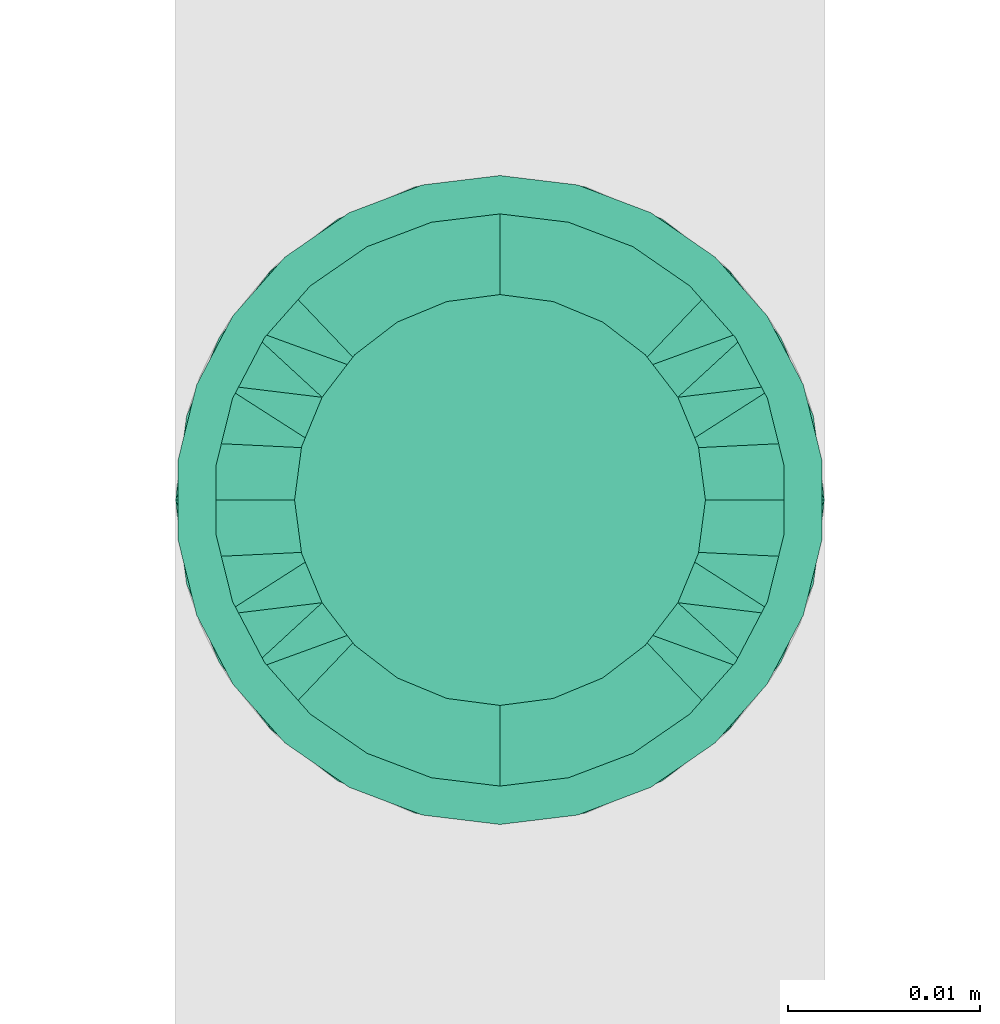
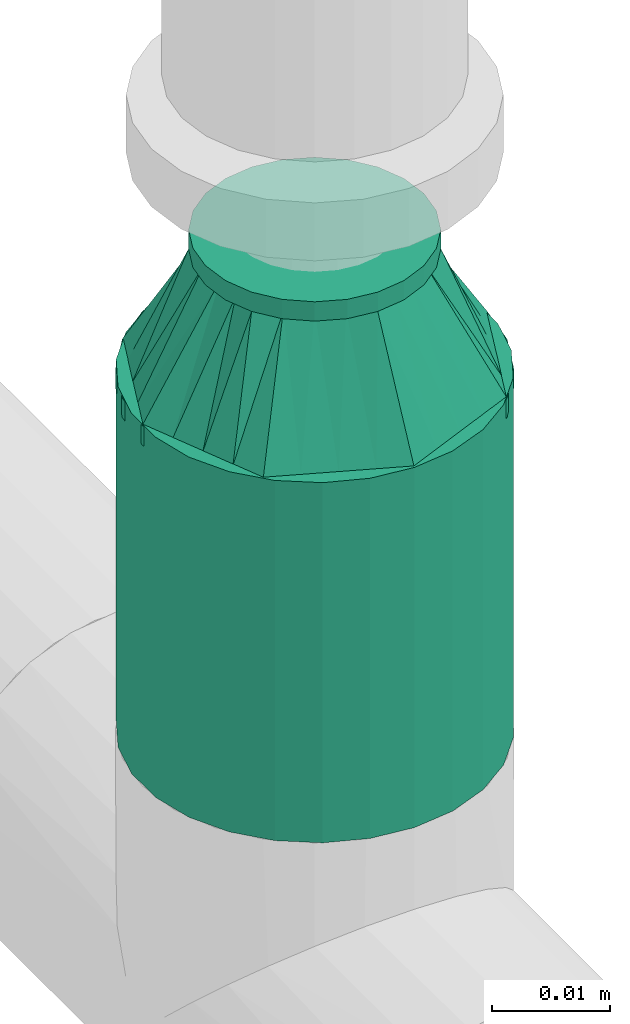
# One storey, part 4 of 31: 1 flow fitting, 1 flow segment.
"""IFC2X3 building model written with IfcOpenShell, lengths in millimetres."""

from ifc_helpers import new_model, entity, si_unit, converted_unit, derived_unit, direction, frame, origin_with_axes, origin_2d_with_axis, place, context, subcontext, project, spatial, hollow_circle, extrude, open_shell, surface_model, source, transform, mapped, type_object, element, save


model = new_model("IFC2X3")

# Units and contexts
model_context = context("Model", 3, precision=0.01, world=frame((0.0, 4.29681676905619e-09, 0.0)), true_north=direction((4.01073788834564e-13, 1.0)))
plan_context = context("Plan", 3, precision=0.01, world=frame((0.0, 4.29681676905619e-09, 0.0)), true_north=direction((4.01073788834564e-13, 1.0)))
body_context = subcontext(model_context, "Body", "Model", "MODEL_VIEW")
ifc_project = project(units=[converted_unit("PLANEANGLEUNIT", "DEGREE", entity("IfcPositiveLengthMeasure", 0.0174532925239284), si_unit("PLANEANGLEUNIT", "RADIAN"), dimensions=[0, 0, 0, 0, 0, 0, 0]), si_unit("AREAUNIT", "SQUARE_METRE"), si_unit("LENGTHUNIT", "METRE", prefix="MILLI"), si_unit("MASSUNIT", "GRAM", prefix="KILO"), si_unit("POWERUNIT", "WATT"), si_unit("PRESSUREUNIT", "PASCAL", prefix="KILO"), si_unit("FORCEUNIT", "NEWTON", prefix="KILO"), si_unit("ELECTRICVOLTAGEUNIT", "VOLT"), si_unit("ELECTRICCURRENTUNIT", "AMPERE"), si_unit("THERMODYNAMICTEMPERATUREUNIT", "DEGREE_CELSIUS"), si_unit("TIMEUNIT", "SECOND"), si_unit("VOLUMEUNIT", "CUBIC_METRE"), derived_unit("LINEARVELOCITYUNIT", [(si_unit("LENGTHUNIT", "METRE"), 1), (si_unit("TIMEUNIT", "SECOND"), -1)]), derived_unit("VOLUMETRICFLOWRATEUNIT", [(si_unit("VOLUMEUNIT", "CUBIC_METRE"), 1), (si_unit("TIMEUNIT", "SECOND"), -1)]), derived_unit("THERMALTRANSMITTANCEUNIT", [(si_unit("POWERUNIT", "WATT"), 1), (si_unit("THERMODYNAMICTEMPERATUREUNIT", "KELVIN"), -1), (si_unit("AREAUNIT", "SQUARE_METRE"), -1)]), derived_unit("SOUNDPRESSUREUNIT", [(si_unit("PRESSUREUNIT", "PASCAL"), 1)])], contexts=[model_context, plan_context])

# Site, building, storey
site_placement = place(None, frame((0.0, -4.29681676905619e-09, 0.0), z_axis=(0.0, 0.0, 1.0), x_axis=(1.0, 0.0, 0.0)))
site = spatial("IfcSite", under=ifc_project, at=site_placement, CompositionType="ELEMENT")
building_placement = place(site_placement, frame((0.0, 4.29681676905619e-09, 0.0), z_axis=(0.0, 0.0, 1.0), x_axis=(1.0, 0.0, 0.0)))
building = spatial("IfcBuilding", under=site, at=building_placement, Name="mc-building", CompositionType="ELEMENT")
storey_placement = place(building_placement, frame((0.0, 0.0, 200300.0), z_axis=(0.0, 0.0, 1.0), x_axis=(1.0, 0.0, 0.0)))
storey = spatial("IfcBuildingStorey", under=building, at=storey_placement, Name="Nivå C", CompositionType="ELEMENT", Elevation=200300.0)

# Flow fitting
pipe_fitting_type = type_object("IfcPipeFittingType", Name="magi_pipe_fe_reducer_centric_short_NOR", PredefinedType="TRANSITION")
shared_shape_1 = source(origin_with_axes(), body_context, "Body", "SurfaceModel", [
    surface_model("IfcShellBasedSurfaceModel", [(14.4, 5.35, -9.26647), (14.4, 0.0, -10.7), (14.4, 2.76936, -10.33541), (14.4, 10.33541, -2.76936), (14.4, 7.56604, -7.56604), (14.4, -10.33541, -2.76936), (14.4, 9.26647, -5.35), (14.4, 0.0, 10.7), (14.4, -5.35, -9.26647), (14.4, -2.76936, -10.33541), (14.4, -7.56604, -7.56604), (14.4, -9.26647, -5.35), (14.4, 10.7, 0.0), (14.4, 10.33541, 2.76936), (14.4, 9.26647, 5.35), (14.4, 7.56604, 7.56604), (14.4, 2.76936, 10.33541), (14.4, 5.35, 9.26647), (14.4, -10.33541, 2.76936), (14.4, -7.56604, 7.56604), (14.4, -9.26647, 5.35), (14.4, -10.7, 0.0), (14.4, -2.76936, 10.33541), (14.4, -5.35, 9.26647), (12.4, 2.76936, 10.33541), (12.4, -10.33541, -2.76936), (12.4, 0.0, 10.7), (12.4, 5.35, 9.26647), (12.4, 7.56604, 7.56604), (12.4, 9.26647, 5.35), (12.4, 10.33541, 2.76936), (12.4, -10.33541, 2.76936), (12.4, -2.76936, 10.33541), (12.4, -7.56604, 7.56604), (12.4, -5.35, 9.26647), (12.4, -9.26647, 5.35), (12.4, -10.7, 0.0), (12.4, 10.33541, -2.76936), (12.4, 5.35, -9.26647), (12.4, 9.26647, -5.35), (12.4, 7.56604, -7.56604), (12.4, 2.76936, -10.33541), (12.4, -9.26647, -5.35), (12.4, -5.35, -9.26647), (12.4, -7.56604, -7.56604), (12.4, 0.0, -10.7), (12.4, -2.76936, -10.33541), (12.4, 10.7, 0.0), (-2.0, 11.9501, 11.9501), (-2.0, 0.0, 16.9), (-2.0, 4.37404, 16.32415), (-2.0, 8.45, 14.63583), (-2.0, 14.63583, 8.45), (-2.0, 16.32415, 4.37404), (-2.0, -16.32415, 4.37404), (-2.0, -8.45, 14.63583), (-2.0, -14.63583, 8.45), (-2.0, -11.9501, 11.9501), (-2.0, -4.37404, 16.32415), (-2.0, -16.32415, -4.37404), (-2.0, -16.9, 0.0), (-2.0, -8.45, -14.63583), (-2.0, 16.32415, -4.37404), (-2.0, 11.9501, -11.9501), (-2.0, 14.63583, -8.45), (-2.0, 8.45, -14.63583), (-2.0, 4.37404, -16.32415), (-2.0, 0.0, -16.9), (-2.0, -11.9501, -11.9501), (-2.0, -14.63583, -8.45), (-2.0, -4.37404, -16.32415), (-2.0, 16.9, 0.0), (0.0, 4.37404, -16.32415), (0.0, 8.45, -14.63583), (0.0, 11.9501, -11.9501), (0.0, 0.0, -16.9), (0.0, 16.32415, -4.37404), (0.0, 16.32415, 4.37404), (0.0, 14.63583, -8.45), (0.0, -8.45, -14.63583), (0.0, -4.37404, -16.32415), (0.0, -11.9501, -11.9501), (0.0, -16.32415, -4.37404), (0.0, -14.63583, -8.45), (0.0, -16.32415, 4.37404), (0.0, 16.9, 0.0), (0.0, 14.63583, 8.45), (0.0, 11.9501, 11.9501), (0.0, 4.37404, 16.32415), (0.0, 8.45, 14.63583), (0.0, 0.0, 16.9), (0.0, -14.63583, 8.45), (0.0, -16.9, 0.0), (0.0, -8.45, 14.63583), (0.0, -11.9501, 11.9501), (0.0, -4.37404, 16.32415), (12.4, 9.3625, -2.31662), (0.0, 14.42505, -5.97505), (0.0, 15.66253, -2.98753), (12.4, -6.6875, -6.94985), (0.0, -13.18758, -8.96258), (0.0, 2.98753, -15.66253), (12.4, 0.0, -9.26647), (12.4, 6.6875, -6.94985), (0.0, 8.96258, -13.18758), (12.4, -9.3625, -2.31662), (0.0, -15.66253, -2.98753), (0.0, -14.42505, -5.97505), (0.0, 5.97505, -14.42505), (0.0, -2.98753, -15.66253), (0.0, -8.96258, -13.18758), (0.0, 13.18758, -8.96258), (12.4, 8.025, -4.63324), (12.4, -2.675, -9.26647), (12.4, 2.675, -9.26647), (0.0, -5.97505, -14.42505), (12.4, -8.025, -4.63324), (12.4, -9.3625, 2.31662), (0.0, -14.42505, 5.97505), (0.0, -15.66253, 2.98753), (12.4, 6.6875, 6.94985), (0.0, 13.18758, 8.96258), (0.0, -2.98753, 15.66253), (12.4, 0.0, 9.26647), (12.4, -6.6875, 6.94985), (0.0, -8.96258, 13.18758), (12.4, 9.3625, 2.31662), (0.0, 15.66253, 2.98753), (0.0, 14.42505, 5.97505), (0.0, -5.97505, 14.42505), (0.0, 2.98753, 15.66253), (0.0, 8.96258, 13.18758), (0.0, -13.18758, 8.96258), (12.4, -8.025, 4.63324), (12.4, 2.675, 9.26647), (12.4, -2.675, 9.26647), (0.0, 5.97505, 14.42505), (12.4, 8.025, 4.63324)], [open_shell([[[0, 1, 2]], [[3, 0, 4]], [[5, 0, 3]], [[3, 4, 6]], [[7, 5, 3]], [[1, 8, 9]], [[1, 0, 8]], [[10, 5, 11]], [[5, 10, 8]], [[0, 5, 8]], [[3, 12, 13]], [[13, 14, 15]], [[13, 15, 16]], [[7, 3, 16]], [[16, 15, 17]], [[7, 18, 5]], [[18, 19, 20]], [[21, 5, 18]], [[19, 22, 23]], [[22, 19, 18]], [[7, 22, 18]], [[13, 16, 3]], [[24, 25, 26]], [[27, 25, 24]], [[28, 29, 30]], [[28, 25, 27]], [[31, 26, 25]], [[32, 33, 34]], [[33, 32, 31]], [[33, 31, 35]], [[32, 26, 31]], [[31, 25, 36]], [[30, 37, 28]], [[25, 28, 37]], [[38, 37, 39]], [[37, 38, 25]], [[38, 39, 40]], [[41, 25, 38]], [[42, 43, 44]], [[43, 42, 25]], [[43, 45, 46]], [[43, 25, 41]], [[41, 45, 43]], [[37, 30, 47]], [[25, 5, 36]], [[42, 11, 25]], [[8, 44, 43]], [[42, 44, 10]], [[9, 43, 46]], [[25, 11, 5]], [[5, 21, 36]], [[9, 8, 43]], [[10, 44, 8]], [[10, 11, 42]], [[1, 9, 46]], [[46, 45, 1]], [[41, 2, 45]], [[38, 0, 41]], [[6, 40, 39]], [[38, 40, 4]], [[3, 39, 37]], [[38, 4, 0]], [[0, 2, 41]], [[12, 3, 37]], [[6, 39, 3]], [[6, 4, 40]], [[47, 12, 37]], [[45, 2, 1]], [[30, 13, 47]], [[29, 14, 30]], [[17, 28, 27]], [[29, 28, 15]], [[16, 27, 24]], [[30, 14, 13]], [[13, 12, 47]], [[16, 17, 27]], [[15, 28, 17]], [[15, 14, 29]], [[7, 16, 24]], [[24, 26, 7]], [[32, 22, 26]], [[34, 23, 32]], [[20, 33, 35]], [[34, 33, 19]], [[18, 35, 31]], [[34, 19, 23]], [[23, 22, 32]], [[21, 18, 31]], [[20, 35, 18]], [[20, 19, 33]], [[36, 21, 31]], [[26, 22, 7]], [[48, 49, 50]], [[48, 50, 51]], [[48, 52, 53]], [[48, 53, 49]], [[49, 53, 54]], [[55, 56, 57]], [[55, 58, 49]], [[56, 55, 49]], [[49, 54, 56]], [[54, 59, 60]], [[54, 53, 61]], [[53, 62, 63]], [[63, 62, 64]], [[63, 65, 66]], [[61, 53, 63]], [[67, 63, 66]], [[59, 68, 69]], [[68, 59, 61]], [[61, 67, 70]], [[59, 54, 61]], [[63, 67, 61]], [[53, 71, 62]], [[72, 73, 74]], [[75, 72, 74]], [[74, 76, 77]], [[76, 74, 78]], [[74, 77, 79]], [[75, 79, 80]], [[75, 74, 79]], [[81, 82, 83]], [[82, 81, 79]], [[79, 84, 82]], [[77, 76, 85]], [[77, 86, 87]], [[77, 87, 88]], [[88, 84, 79]], [[88, 87, 89]], [[84, 88, 90]], [[90, 91, 84]], [[92, 82, 84]], [[91, 93, 94]], [[91, 90, 93]], [[93, 90, 95]], [[79, 77, 88]], [[59, 82, 60]], [[69, 83, 59]], [[79, 68, 61]], [[69, 68, 81]], [[80, 61, 70]], [[59, 83, 82]], [[82, 92, 60]], [[80, 79, 61]], [[81, 68, 79]], [[81, 83, 69]], [[75, 80, 70]], [[70, 67, 75]], [[66, 72, 67]], [[65, 73, 66]], [[78, 63, 64]], [[65, 63, 74]], [[76, 64, 62]], [[65, 74, 73]], [[73, 72, 66]], [[85, 76, 62]], [[78, 64, 76]], [[78, 74, 63]], [[71, 85, 62]], [[67, 72, 75]], [[53, 77, 71]], [[52, 86, 53]], [[89, 48, 51]], [[52, 48, 87]], [[88, 51, 50]], [[53, 86, 77]], [[77, 85, 71]], [[88, 89, 51]], [[87, 48, 89]], [[87, 86, 52]], [[90, 88, 50]], [[50, 49, 90]], [[58, 95, 49]], [[55, 93, 58]], [[91, 57, 56]], [[55, 57, 94]], [[84, 56, 54]], [[55, 94, 93]], [[93, 95, 58]], [[92, 84, 54]], [[91, 56, 84]], [[91, 94, 57]], [[60, 92, 54]], [[49, 95, 90]], [[27, 34, 47]], [[47, 34, 43]], [[43, 38, 47]], [[43, 34, 36]], [[90, 87, 94]], [[92, 94, 87]], [[87, 74, 92]], [[75, 92, 74]], [[81, 92, 75]], [[74, 87, 85]], [[96, 97, 98]], [[81, 99, 100]], [[101, 102, 75]], [[98, 85, 47]], [[74, 103, 104]], [[104, 103, 38]], [[105, 106, 107]], [[38, 108, 104]], [[102, 109, 75]], [[110, 99, 81]], [[47, 96, 98]], [[103, 111, 112]], [[109, 102, 113]], [[36, 92, 106]], [[102, 101, 114]], [[110, 115, 43]], [[96, 112, 97]], [[107, 116, 105]], [[36, 106, 105]], [[113, 115, 109]], [[43, 115, 113]], [[116, 107, 100]], [[108, 38, 114]], [[111, 103, 74]], [[111, 97, 112]], [[99, 110, 43]], [[116, 100, 99]], [[101, 108, 114]], [[117, 118, 119]], [[87, 120, 121]], [[122, 123, 90]], [[119, 92, 36]], [[94, 124, 125]], [[125, 124, 34]], [[126, 127, 128]], [[34, 129, 125]], [[123, 130, 90]], [[131, 120, 87]], [[36, 117, 119]], [[124, 132, 133]], [[130, 123, 134]], [[47, 85, 127]], [[123, 122, 135]], [[131, 136, 27]], [[117, 133, 118]], [[128, 137, 126]], [[47, 127, 126]], [[134, 136, 130]], [[27, 136, 134]], [[137, 128, 121]], [[129, 34, 135]], [[132, 124, 94]], [[132, 118, 133]], [[120, 131, 27]], [[137, 121, 120]], [[122, 129, 135]]])]),
])
flow_fitting_placement = place(storey_placement, frame((602500.0, 400928.19532, 2962.64799999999), z_axis=(-1.0, 0.0, 0.0), x_axis=(0.0, 0.0, 1.0)))
element("IfcFlowFitting", 1, at=flow_fitting_placement, inside=storey, type_object=pipe_fitting_type, Name="magi_pipe_fe_reducer_centric_short_NOR", context=body_context, shape_type="MappedRepresentation", body=[
    mapped(shared_shape_1, transform((0.0, 0.0, 0.0), scale=1.0)),
])

# Flow segment
pipe_segment_type = type_object("IfcPipeSegmentType", Name="Stålrør normaltykke", PredefinedType="RIGIDSEGMENT")
shared_shape_2 = source(origin_with_axes(), body_context, "Body", "SweptSolid", [
    extrude(hollow_circle(Radius=16.9, WallThickness=2.0, at=origin_2d_with_axis()), frame((0.0, 0.0, 0.0), z_axis=(1.0, 0.0, 0.0), x_axis=(0.0, 1.0, 0.0)), (0.0, 0.0, 1.0), 37.3),
])
flow_segment_placement = place(storey_placement, frame((602500.0, 400928.19532, 2925.35000000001), z_axis=(-1.0, 0.0, 0.0), x_axis=(0.0, 0.0, 1.0)))
element("IfcFlowSegment", 2, at=flow_segment_placement, inside=storey, type_object=pipe_segment_type, Name="Stålrør normaltykke", context=body_context, shape_type="MappedRepresentation", body=[
    mapped(shared_shape_2, transform((0.0, 0.0, 0.0), scale=1.0)),
])

save(model, "model.ifc")
